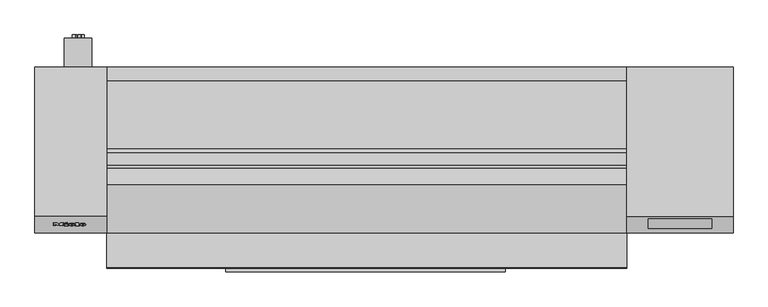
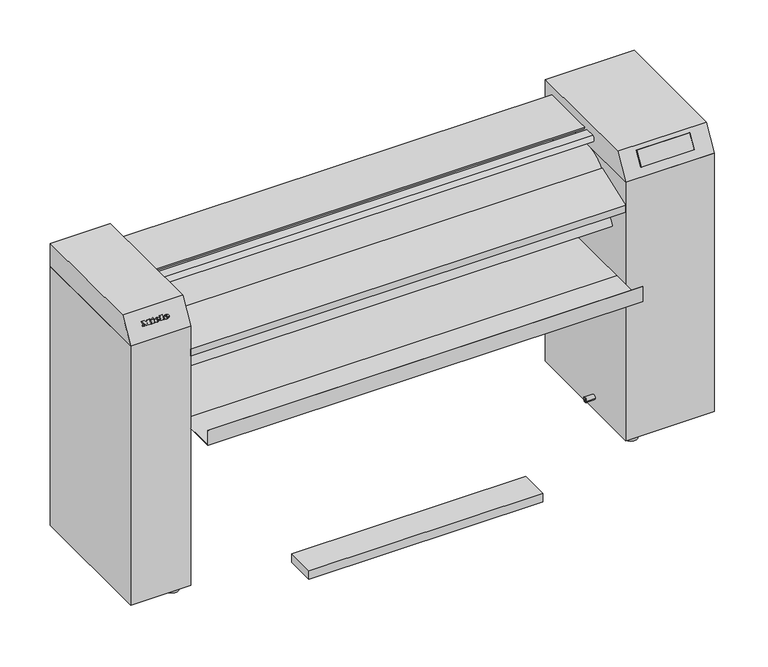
"""IFC4 building model written with IfcOpenShell, lengths in millimetres: proxy geometry, 11744550_EU_PRI214EL_STW : 53214004_EU_11744550_PRI214EL_STW."""

from ifc_helpers import new_model, si_unit, point, frame, frame_2d, origin, place, context, project, spatial, polyline, circle_curve, ellipse_curve, trimmed, segment, composite_curve, outline, extrude, faceted_brep, source, transform, mapped, element, save
from ifc_brep_helpers import plane_surface, cylinder_surface, revolved_surface, extruded_surface, advanced_brep


def specialty_equipment_5863dd85(model_context):
    return source(origin(), model_context, "Body", "SolidModel", [
        advanced_brep(
        [(-852.7523169, -447.1698462, 991.5429863), (-852.7523169, -446.4123462, 992.8550148), (-842.7173169, -446.4123462, 992.8550148), (-860.1773169, -446.4123462, 992.8550148), (-856.0523169, -448.9473462, 988.464266), (-842.9723169, -447.1698462, 991.5429863), (-847.5023169, -447.1698462, 991.5429863), (-851.0723169, -448.0098462, 990.0880637), (-852.7523169, -445.4523462, 994.5177836), (-852.7523169, -444.6348462, 995.9337351), (-850.1873169, -444.6348462, 995.9337351), (-850.1873169, -445.4523462, 994.5177836), (-852.7523169, -446.3038208, 991.0429863), (-851.0723169, -447.1438208, 989.5880637), (-847.5023169, -446.3038208, 991.0429863), (-842.9723169, -446.3038208, 991.0429863), (-856.0523169, -448.0813208, 987.964266), (-860.1773169, -445.5463208, 992.3550148), (-842.7173169, -445.5463208, 992.3550148), (-852.7523169, -445.5463208, 992.3550148), (-852.7523169, -444.5863208, 994.0177836), (-850.1873169, -444.5863208, 994.0177836), (-850.1873169, -443.7688208, 995.4337351), (-852.7523169, -443.7688208, 995.4337351)],
        [
            (0, 1),
            (1, 2),
            (2, 3, ellipse_curve(frame((-851.4473169, -446.4123462, 992.8550148), z_axis=(0.0, -0.8660254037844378, 0.5000000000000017), x_axis=(-1.0, 0.0, 0.0)), 8.73, 7.215)),
            (3, 4, circle_curve(frame((-854.3722351, -446.1573462, 993.2966878), z_axis=(0.0, -0.8660254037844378, 0.5000000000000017), x_axis=(0.0, -0.5000000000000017, -0.8660254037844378)), 5.8274415)),
            (4, 5, circle_curve(frame((-851.6220789, -444.1773462, 996.7261484), z_axis=(0.0, -0.8660254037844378, 0.5000000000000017), x_axis=(0.0, -0.5000000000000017, -0.8660254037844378)), 10.5184889)),
            (5, 6),
            (6, 7, circle_curve(frame((-850.3390816, -446.4723462, 992.7510918), z_axis=(0.0, 0.8660254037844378, -0.5000000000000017), x_axis=(0.0, -0.5000000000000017, -0.8660254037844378)), 3.1612116)),
            (7, 0, circle_curve(frame((-851.0723169, -447.1698462, 991.5429863), z_axis=(0.0, 0.8660254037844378, -0.5000000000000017), x_axis=(0.0, -0.5000000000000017, -0.8660254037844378)), 1.68)),
            (8, 9),
            (9, 10, circle_curve(frame((-851.4698169, -444.6348462, 995.9337351), z_axis=(0.0, 0.8660254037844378, -0.5000000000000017), x_axis=(0.0, -0.5000000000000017, -0.8660254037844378)), 1.2825)),
            (10, 11),
            (11, 8),
            (12, 13, circle_curve(frame((-851.0723169, -446.3038208, 991.0429863), z_axis=(0.0, -0.8660254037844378, 0.5000000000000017), x_axis=(0.0, -0.5000000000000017, -0.8660254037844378)), 1.68)),
            (13, 14, circle_curve(frame((-850.3390816, -445.6063208, 992.2510918), z_axis=(0.0, -0.8660254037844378, 0.5000000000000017), x_axis=(0.0, -0.5000000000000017, -0.8660254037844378)), 3.1612116)),
            (14, 15),
            (15, 16, circle_curve(frame((-851.6220789, -443.3113208, 996.2261484), z_axis=(0.0, 0.8660254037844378, -0.5000000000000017), x_axis=(0.0, -0.5000000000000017, -0.8660254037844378)), 10.5184889)),
            (16, 17, circle_curve(frame((-854.3722351, -445.2913208, 992.7966878), z_axis=(0.0, 0.8660254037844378, -0.5000000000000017), x_axis=(0.0, -0.5000000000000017, -0.8660254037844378)), 5.8274415)),
            (17, 18, ellipse_curve(frame((-851.4473169, -445.5463208, 992.3550148), z_axis=(0.0, 0.8660254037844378, -0.5000000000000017), x_axis=(-1.0, 0.0, 0.0)), 8.73, 7.215)),
            (18, 19),
            (19, 12),
            (20, 21),
            (21, 22),
            (22, 23, circle_curve(frame((-851.4698169, -443.7688208, 995.4337351), z_axis=(0.0, -0.8660254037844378, 0.5000000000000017), x_axis=(0.0, -0.5000000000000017, -0.8660254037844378)), 1.2825)),
            (23, 20),
            (0, 12),
            (19, 1),
            (18, 2),
            (5, 15),
            (14, 6),
            (17, 3),
            (13, 7),
            (16, 4),
            (8, 20),
            (23, 9),
            (22, 10),
            (21, 11),
        ],
        [
            plane_surface(frame((-852.7523169, -446.4123462, 992.8550148), z_axis=(0.0, -0.8660254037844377, 0.5000000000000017), x_axis=(0.0, 0.5000000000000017, 0.8660254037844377))),
            plane_surface(frame((-852.7523169, -445.5463208, 992.3550148), z_axis=(0.0, 0.8660254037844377, -0.5000000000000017), x_axis=(0.0, -0.5000000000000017, -0.8660254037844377))),
            plane_surface(frame((-852.7523169, -447.1698462, 991.5429863), z_axis=(1.0, 0.0, 0.0), x_axis=(0.0, 0.866025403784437, -0.5000000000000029))),
            plane_surface(frame((-852.7523169, -446.4123462, 992.8550148), z_axis=(0.0, -0.5000000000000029, -0.866025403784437), x_axis=(0.0, 0.866025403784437, -0.5000000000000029))),
            plane_surface(frame((-842.9723169, -447.1698462, 991.5429863), z_axis=(0.0, 0.5000000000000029, 0.866025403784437), x_axis=(0.0, 0.866025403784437, -0.5000000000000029))),
            extruded_surface(trimmed(ellipse_curve(frame((-851.4473169, -444.6802954, 991.8550148), z_axis=(0.0, -0.8660254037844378, 0.5000000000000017), x_axis=(-1.0, 0.0, 0.0)), 8.73, 7.215), [point((-842.7173169, -444.6802954, 991.8550148))], [point((-860.1773169, -444.6802954, 991.8550148))], True, "CARTESIAN"), (0.0, -0.8660254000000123, 0.5), 0.9999999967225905),
            revolved_surface(polyline([(-850.3390816, -447.18692657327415, 989.5134022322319), (-850.3390816, -448.0529520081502, 990.0134022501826)]), (-850.3390816, -445.6063208, 992.2510918), (0.0, 0.8660254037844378, -0.5000000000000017)),
            revolved_surface(polyline([(-851.0723169, -447.14382079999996, 989.5880636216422), (-851.0723169, -448.009846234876, 990.088063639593)]), (-851.0723169, -446.3038208, 991.0429863), (0.0, 0.8660254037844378, -0.5000000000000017)),
            cylinder_surface(frame((-854.3722351, -445.2913208, 992.7966878), z_axis=(0.0, -0.8660254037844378, 0.5000000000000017), x_axis=(0.0, -0.5000000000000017, -0.8660254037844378)), 5.8274415),
            cylinder_surface(frame((-851.6220789, -443.3113208, 996.2261484), z_axis=(0.0, -0.8660254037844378, 0.5000000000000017), x_axis=(0.0, -0.5000000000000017, -0.8660254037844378)), 10.5184889),
            plane_surface(frame((-852.7523169, -445.4523462, 994.5177836), z_axis=(1.0, 0.0, 0.0), x_axis=(0.0, 0.866025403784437, -0.5000000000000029))),
            revolved_surface(polyline([(-851.4698169, -444.4100708, 994.3230575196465), (-851.4698169, -445.27609620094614, 994.8230575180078)]), (-851.4698169, -443.7688208, 995.4337351), (0.0, 0.8660254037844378, -0.5000000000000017)),
            plane_surface(frame((-850.1873169, -444.6348462, 995.9337351), z_axis=(-1.0, 0.0, 0.0), x_axis=(0.0, 0.866025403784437, -0.5000000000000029))),
            plane_surface(frame((-850.1873169, -445.4523462, 994.5177836), z_axis=(0.0, 0.5000000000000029, 0.866025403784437), x_axis=(0.0, 0.866025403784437, -0.5000000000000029))),
        ],
        [
            (0, [[1, 2, 3, 4, 5, 6, 7, 8], [9, 10, 11, 12]]),
            (1, [[13, 14, 15, 16, 17, 18, 19, 20], [21, 22, 23, 24]]),
            (2, [[-1, 25, -20, 26]]),
            (3, [[-2, -26, -19, 27]]),
            (4, [[-6, 28, -15, 29]]),
            (5, [[-3, -27, -18, 30]]),
            (6, [[-7, -29, -14, 31]]),
            (7, [[-8, -31, -13, -25]]),
            (8, [[-4, -30, -17, 32]]),
            (9, [[-5, -32, -16, -28]]),
            (10, [[-9, 33, -24, 34]]),
            (11, [[-10, -34, -23, 35]]),
            (12, [[-11, -35, -22, 36]]),
            (13, [[-12, -36, -21, -33]]),
        ],
    ),
        advanced_brep(
        [(-884.0573169, -447.2109601, 991.7728003), (-884.0573169, -446.4534601, 993.0848288), (-874.0223169, -446.4534601, 993.0848288), (-891.4823169, -446.4534601, 993.0848288), (-887.3573169, -448.9884601, 988.69408), (-874.2773169, -447.2109601, 991.7728003), (-878.8073169, -447.2109601, 991.7728003), (-882.3773169, -448.0509601, 990.3178776), (-884.0573169, -445.4934601, 994.7475976), (-884.0573169, -444.6759601, 996.1635491), (-881.4923169, -444.6759601, 996.1635491), (-881.4923169, -445.4934601, 994.7475976), (-884.0573169, -446.3449347, 991.2728003), (-882.3773169, -447.1849347, 989.8178776), (-878.8073169, -446.3449347, 991.2728003), (-874.2773169, -446.3449347, 991.2728003), (-887.3573169, -448.1224347, 988.19408), (-891.4823169, -445.5874347, 992.5848288), (-874.0223169, -445.5874347, 992.5848288), (-884.0573169, -445.5874347, 992.5848288), (-884.0573169, -444.6274347, 994.2475976), (-881.4923169, -444.6274347, 994.2475976), (-881.4923169, -443.8099347, 995.6635491), (-884.0573169, -443.8099347, 995.6635491)],
        [
            (0, 1),
            (1, 2),
            (2, 3, ellipse_curve(frame((-882.7523169, -446.4534601, 993.0848288), z_axis=(0.0, -0.8660254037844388, 0.4999999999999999), x_axis=(-1.0, 0.0, 0.0)), 8.73, 7.215)),
            (3, 4, circle_curve(frame((-885.6772351, -446.1984601, 993.5265018), z_axis=(0.0, -0.8660254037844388, 0.4999999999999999), x_axis=(0.0, -0.4999999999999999, -0.8660254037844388)), 5.8274415)),
            (4, 5, circle_curve(frame((-882.9270789, -444.2184601, 996.9559624), z_axis=(0.0, -0.8660254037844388, 0.4999999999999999), x_axis=(0.0, -0.4999999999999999, -0.8660254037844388)), 10.5184889)),
            (5, 6),
            (6, 7, circle_curve(frame((-881.6440816, -446.5134601, 992.9809058), z_axis=(0.0, 0.8660254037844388, -0.4999999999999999), x_axis=(0.0, -0.4999999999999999, -0.8660254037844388)), 3.1612116)),
            (7, 0, circle_curve(frame((-882.3773169, -447.2109601, 991.7728003), z_axis=(0.0, 0.8660254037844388, -0.4999999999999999), x_axis=(0.0, -0.4999999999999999, -0.8660254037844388)), 1.68)),
            (8, 9),
            (9, 10, circle_curve(frame((-882.7748169, -444.6759601, 996.1635491), z_axis=(0.0, 0.8660254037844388, -0.4999999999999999), x_axis=(0.0, -0.4999999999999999, -0.8660254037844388)), 1.2825)),
            (10, 11),
            (11, 8),
            (12, 13, circle_curve(frame((-882.3773169, -446.3449347, 991.2728003), z_axis=(0.0, -0.8660254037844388, 0.4999999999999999), x_axis=(0.0, -0.4999999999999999, -0.8660254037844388)), 1.68)),
            (13, 14, circle_curve(frame((-881.6440816, -445.6474347, 992.4809058), z_axis=(0.0, -0.8660254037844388, 0.4999999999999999), x_axis=(0.0, -0.4999999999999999, -0.8660254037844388)), 3.1612116)),
            (14, 15),
            (15, 16, circle_curve(frame((-882.9270789, -443.3524347, 996.4559624), z_axis=(0.0, 0.8660254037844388, -0.4999999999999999), x_axis=(0.0, -0.4999999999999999, -0.8660254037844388)), 10.5184889)),
            (16, 17, circle_curve(frame((-885.6772351, -445.3324347, 993.0265018), z_axis=(0.0, 0.8660254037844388, -0.4999999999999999), x_axis=(0.0, -0.4999999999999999, -0.8660254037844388)), 5.8274415)),
            (17, 18, ellipse_curve(frame((-882.7523169, -445.5874347, 992.5848288), z_axis=(0.0, 0.8660254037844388, -0.4999999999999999), x_axis=(-1.0, 0.0, 0.0)), 8.73, 7.215)),
            (18, 19),
            (19, 12),
            (20, 21),
            (21, 22),
            (22, 23, circle_curve(frame((-882.7748169, -443.8099347, 995.6635491), z_axis=(0.0, -0.8660254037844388, 0.4999999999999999), x_axis=(0.0, -0.4999999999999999, -0.8660254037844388)), 1.2825)),
            (23, 20),
            (0, 12),
            (19, 1),
            (18, 2),
            (5, 15),
            (14, 6),
            (17, 3),
            (13, 7),
            (16, 4),
            (8, 20),
            (23, 9),
            (22, 10),
            (21, 11),
        ],
        [
            plane_surface(frame((-884.0573169, -446.4534601, 993.0848288), z_axis=(0.0, -0.8660254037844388, 0.49999999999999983), x_axis=(0.0, 0.49999999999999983, 0.8660254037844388))),
            plane_surface(frame((-884.0573169, -445.5874347, 992.5848288), z_axis=(0.0, 0.8660254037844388, -0.49999999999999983), x_axis=(0.0, -0.49999999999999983, -0.8660254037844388))),
            plane_surface(frame((-884.0573169, -447.2109601, 991.7728003), z_axis=(1.0, 0.0, 0.0), x_axis=(0.0, 0.866025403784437, -0.5000000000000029))),
            plane_surface(frame((-884.0573169, -446.4534601, 993.0848288), z_axis=(0.0, -0.5000000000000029, -0.866025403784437), x_axis=(0.0, 0.866025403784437, -0.5000000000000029))),
            plane_surface(frame((-874.2773169, -447.2109601, 991.7728003), z_axis=(0.0, 0.5000000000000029, 0.866025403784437), x_axis=(0.0, 0.866025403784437, -0.5000000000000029))),
            extruded_surface(trimmed(ellipse_curve(frame((-882.7523169, -444.7214093, 992.0848288), z_axis=(0.0, -0.8660254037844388, 0.4999999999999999), x_axis=(-1.0, 0.0, 0.0)), 8.73, 7.215), [point((-874.0223169, -444.7214093, 992.0848288))], [point((-891.4823169, -444.7214093, 992.0848288))], True, "CARTESIAN"), (0.0, -0.8660254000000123, 0.5), 0.9999999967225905),
            revolved_surface(polyline([(-881.6440816, -447.2280404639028, 989.7432162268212), (-881.6440816, -448.0940659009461, 990.2432162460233)]), (-881.6440816, -445.6474347, 992.4809058), (0.0, 0.8660254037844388, -0.4999999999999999)),
            revolved_surface(polyline([(-882.3773169, -447.18493469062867, 989.8178776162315), (-882.3773169, -448.0509601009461, 990.3178776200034)]), (-882.3773169, -446.3449347, 991.2728003), (0.0, 0.8660254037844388, -0.4999999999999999)),
            cylinder_surface(frame((-885.6772351, -445.3324347, 993.0265018), z_axis=(0.0, -0.8660254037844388, 0.4999999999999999), x_axis=(0.0, -0.4999999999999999, -0.8660254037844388)), 5.8274415),
            cylinder_surface(frame((-882.9270789, -443.3524347, 996.4559624), z_axis=(0.0, -0.8660254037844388, 0.4999999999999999), x_axis=(0.0, -0.4999999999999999, -0.8660254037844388)), 10.5184889),
            plane_surface(frame((-884.0573169, -445.4934601, 994.7475976), z_axis=(1.0, 0.0, 0.0), x_axis=(0.0, 0.866025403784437, -0.5000000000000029))),
            revolved_surface(polyline([(-882.7748169, -444.4511847, 994.5528715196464), (-882.7748169, -445.3172101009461, 995.0528715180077)]), (-882.7748169, -443.8099347, 995.6635491), (0.0, 0.8660254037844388, -0.4999999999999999)),
            plane_surface(frame((-881.4923169, -444.6759601, 996.1635491), z_axis=(-1.0, 0.0, 0.0), x_axis=(0.0, 0.866025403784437, -0.5000000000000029))),
            plane_surface(frame((-881.4923169, -445.4934601, 994.7475976), z_axis=(0.0, 0.5000000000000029, 0.866025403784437), x_axis=(0.0, 0.866025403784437, -0.5000000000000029))),
        ],
        [
            (0, [[1, 2, 3, 4, 5, 6, 7, 8], [9, 10, 11, 12]]),
            (1, [[13, 14, 15, 16, 17, 18, 19, 20], [21, 22, 23, 24]]),
            (2, [[-1, 25, -20, 26]]),
            (3, [[-2, -26, -19, 27]]),
            (4, [[-6, 28, -15, 29]]),
            (5, [[-3, -27, -18, 30]]),
            (6, [[-7, -29, -14, 31]]),
            (7, [[-8, -31, -13, -25]]),
            (8, [[-4, -30, -17, 32]]),
            (9, [[-5, -32, -16, -28]]),
            (10, [[-9, 33, -24, 34]]),
            (11, [[-10, -34, -23, 35]]),
            (12, [[-11, -35, -22, 36]]),
            (13, [[-12, -36, -21, -33]]),
        ],
    ),
        extrude(outline(polyline([(0.0, 0.0), (-0.0204536, -5.6237427), (-2.6982028, -5.6101628), (-2.6841199, 0.0), (0.0, 0.0)])), frame((-900.4523169, -441.3274347, 999.9633652), z_axis=(0.0, -0.8660254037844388, 0.49999999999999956), x_axis=(-0.42472021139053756, 0.45266233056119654, 0.7840341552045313)), (0.0, 0.0, 1.0), 1.0),
        extrude(outline(polyline([(-0.9251077, 4.5264556), (-5.2126582, -4.6127968), (-13.2112016, -0.8603938), (-13.9502147, -2.4356587), (-16.2316329, -1.3653637), (-11.2050692, 9.3491536), (-8.923651, 8.2788587), (-9.6817766, 6.6628542), (-4.11403, 4.0508249), (-3.3559044, 5.6668294), (-0.9251077, 4.5264556)])), frame((-900.4523169, -441.3274347, 999.9633652), z_axis=(0.0, -0.8660254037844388, 0.49999999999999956), x_axis=(-0.42472021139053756, 0.45266233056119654, 0.7840341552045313)), (0.0, 0.0, 1.0), 1.0),
        extrude(outline(polyline([(0.0, 0.0), (0.0, -2.445), (-10.32, -2.445), (-10.32, 10.035), (-12.165, 10.035), (-12.165, 12.555), (0.0, 12.555), (0.0, 10.035), (-1.8, 10.035), (-1.8, 0.0), (0.0, 0.0)])), frame((-873.1823169, -441.8977756, 998.6744804), z_axis=(0.0, -0.8660254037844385, 0.5000000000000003), x_axis=(-1.0, 0.0, 0.0)), (0.0, 0.0, 1.0), 1.0),
        extrude(outline(polyline([(0.0, 0.0), (0.0, -2.445), (-10.455, -2.445), (-14.85, 3.18), (-19.23, -2.445), (-28.365, -2.445), (-28.365, 0.0), (-26.46, 0.0), (-26.46, 10.0350001), (-28.365, 10.0350001), (-28.365, 12.555), (-16.395, 12.555), (-16.395, 10.0350001), (-18.24, 10.0350001), (-18.24, 3.3647778), (-11.505, 12.555), (-4.8, 3.6988753), (-4.8, 10.0350001), (-6.6, 10.0350001), (-6.6, 12.555), (0.0, 12.555), (0.0, 10.0350001), (-1.815, 10.0350001), (-1.815, 0.0), (0.0, 0.0)])), frame((-934.0523169, -441.8229474, 998.8040867), z_axis=(0.0, -0.8660254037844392, 0.4999999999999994), x_axis=(-1.0, 0.0, 0.0)), (0.0, 0.0, 1.0), 1.0),
        extrude(outline(polyline([(-365.9889853, 793.6796927), (-390.6353849, 749.1868935), (-365.9889853, 749.1868935), (-365.9889853, 747.1868935), (-393.8714528, 747.1868935), (-367.9889853, 794.1518286), (-367.9889853, 838.0716898), (-379.8372457, 861.7682107), (-377.0332443, 861.7682107), (-365.9889853, 839.6796927), (-365.9889853, 793.6796927)])), frame((-783.5, 0.0, 0.0), z_axis=(1.0, 0.0, 0.0), x_axis=(0.0, 1.0, 0.0)), (0.0, 0.0, 1.0), 1470.0),
        extrude(outline(polyline([(-395.0, 843.9863336), (-470.0, 843.9863336), (-470.0, 868.9863336), (-334.0, 918.9863336), (-395.0, 843.9863336)])), frame((-783.5, 0.0, 0.0), z_axis=(1.0, 0.0, 0.0), x_axis=(0.0, 1.0, 0.0)), (0.0, 0.0, 1.0), 1470.0),
        extrude(outline(composite_curve([segment(polyline([(-244.0, 1001.9863336), (-244.0, 965.1103132)]), True, "CONTINUOUS"), segment(trimmed(circle_curve(frame_2d((-245.9233585, 965.1103132)), 1.9233585), [point((-244.0, 965.1103132))], [point((-246.9899766, 963.5098028))], False, "CARTESIAN"), True, "CONTINUOUS"), segment(polyline([(-246.9899766, 963.5098028), (-279.640261, 980.1459536)]), True, "CONTINUOUS"), segment(trimmed(circle_curve(frame_2d((-274.2619572, 990.7014691)), 11.846732), [point((-279.640261, 980.1459536))], [point((-277.8670773, 1001.9863336))], False, "CARTESIAN"), True, "CONTINUOUS"), segment(polyline([(-277.8670773, 1001.9863336), (-244.0, 1001.9863336)]), True, "CONTINUOUS")], self_intersect=False)), frame((-783.5, 0.0, 0.0), z_axis=(1.0, 0.0, 0.0), x_axis=(0.0, 1.0, 0.0)), (0.0, 0.0, 1.0), 1470.0),
        extrude(outline(polyline([(-45.0, 850.9863336), (-40.0, 850.9863336), (-40.0, 803.3618723), (-66.0513656, 731.7863336), (-150.9374699, 731.7863336), (-150.9374699, 736.7863336), (-69.5524033, 736.7863336), (-45.0, 804.2435072), (-45.0, 850.9863336)])), frame((-783.5, 0.0, 0.0), z_axis=(1.0, 0.0, 0.0), x_axis=(0.0, 1.0, 0.0)), (0.0, 0.0, 1.0), 1470.0),
        extrude(outline(polyline([(-40.0, 1001.9863336), (-40.0, 850.9863336), (-45.0, 850.9863336), (-45.0, 996.9863336), (-230.0, 996.9863336), (-230.0, 1001.9863336), (-40.0, 1001.9863336)])), frame((-783.5, 0.0, 0.0), z_axis=(1.0, 0.0, 0.0), x_axis=(0.0, 1.0, 0.0)), (0.0, 0.0, 1.0), 1470.0),
        extrude(outline(polyline([(342.5, -480.0), (342.5, -580.0), (-447.5, -580.0), (-447.5, -480.0), (342.5, -480.0)])), frame((0.0, 0.0, -6.0136664), z_axis=(0.0, 0.0, 1.0), x_axis=(1.0, 0.0, 0.0)), (0.0, 0.0, 1.0), 30.0),
        extrude(outline(polyline([(-422.6572779, 1031.9863336), (0.0, 1031.9863336), (0.0, 949.9863336), (-470.0, 949.9863336), (-422.6572779, 1031.9863336)])), frame((-986.5, 0.0, 0.0), z_axis=(1.0, 0.0, 0.0), x_axis=(0.0, 1.0, 0.0)), (0.0, 0.0, 1.0), 203.0),
        extrude(outline(polyline([(424.6662565, -847.40575), (444.7575185, -855.4255775), (444.7575185, -857.5641981), (424.6662565, -865.5840256), (424.6662565, -862.9303702), (430.9447758, -860.6298814), (430.9447758, -852.3549891), (424.6662565, -850.0594054), (424.6662565, -847.40575)]), holes=[polyline([(433.4561836, -853.2771466), (433.4561836, -859.712629), (438.3956125, -857.9026496), (442.2461107, -856.4948878), (438.8272607, -855.244089), (433.4561836, -853.2771466)])]), frame((0.0, 81.0, 0.0), z_axis=(0.0, 1.0, 0.0), x_axis=(0.0, 0.0, 1.0)), (0.0, 0.0, 1.0), 10.0),
        extrude(outline(polyline([(424.6662565, -868.2671116), (444.7575185, -868.2671116), (444.7575185, -870.7785194), (427.1776642, -870.7785194), (427.1776642, -880.8241504), (424.6662565, -880.8241504), (424.6662565, -868.2671116)])), frame((0.0, 81.0, 0.0), z_axis=(0.0, 1.0, 0.0), x_axis=(0.0, 0.0, 1.0)), (0.0, 0.0, 1.0), 10.0),
        extrude(outline(composite_curve([segment(trimmed(circle_curve(frame_2d((435.9863336, -864.5)), 39.0), [point((435.9863336, -903.5))], [point((435.9863336, -825.5))], False, "CARTESIAN"), True, "CONTINUOUS"), segment(trimmed(circle_curve(frame_2d((435.9863336, -864.5)), 39.0), [point((435.9863336, -825.5))], [point((435.9863336, -903.5))], False, "CARTESIAN"), True, "CONTINUOUS")], self_intersect=False), holes=[composite_curve([segment(trimmed(circle_curve(frame_2d((435.9863336, -864.5)), 33.5), [point((435.9863336, -898.0))], [point((435.9863336, -831.0))], True, "CARTESIAN"), True, "CONTINUOUS"), segment(trimmed(circle_curve(frame_2d((435.9863336, -864.5)), 33.5), [point((435.9863336, -831.0))], [point((435.9863336, -898.0))], True, "CARTESIAN"), True, "CONTINUOUS")], self_intersect=False)]), frame((0.0, 0.0, 0.0), z_axis=(0.0, 1.0, 0.0), x_axis=(0.0, 0.0, 1.0)), (0.0, 0.0, 1.0), 81.0),
        extrude(outline(composite_curve([segment(trimmed(circle_curve(frame_2d((-823.9685993, -40.5)), 21.5), [point((-845.4685993, -40.5))], [point((-802.4685993, -40.5))], False, "CARTESIAN"), True, "CONTINUOUS"), segment(trimmed(circle_curve(frame_2d((-823.9685993, -40.5)), 21.5), [point((-802.4685993, -40.5))], [point((-845.4685993, -40.5))], False, "CARTESIAN"), True, "CONTINUOUS")], self_intersect=False)), frame((0.0, 0.0, -0.0136664), z_axis=(0.0, 0.0, 1.0), x_axis=(1.0, 0.0, 0.0)), (0.0, 0.0, 1.0), 23.0),
        extrude(outline(composite_curve([segment(trimmed(circle_curve(frame_2d((-823.9685993, -429.5)), 21.5), [point((-845.4685993, -429.5))], [point((-802.4685993, -429.5))], False, "CARTESIAN"), True, "CONTINUOUS"), segment(trimmed(circle_curve(frame_2d((-823.9685993, -429.5)), 21.5), [point((-802.4685993, -429.5))], [point((-845.4685993, -429.5))], False, "CARTESIAN"), True, "CONTINUOUS")], self_intersect=False)), frame((0.0, 0.0, -0.0136664), z_axis=(0.0, 0.0, 1.0), x_axis=(1.0, 0.0, 0.0)), (0.0, 0.0, 1.0), 23.0),
        extrude(outline(polyline([(-783.5, 0.0), (-783.5, -470.0), (-986.5, -470.0), (-986.5, 0.0), (-783.5, 0.0)])), frame((0.0, 0.0, 22.9863336), z_axis=(0.0, 0.0, 1.0), x_axis=(1.0, 0.0, 0.0)), (0.0, 0.0, 1.0), 927.0),
        extrude(outline(polyline([(0.0236709, 379.9863336), (-223.5359646, 379.9863336), (-417.2970905, 559.9863336), (0.0236709, 559.9863336), (0.0236709, 379.9863336)])), frame((-783.5, 0.0, 0.0), z_axis=(1.0, 0.0, 0.0), x_axis=(0.0, 1.0, 0.0)), (0.0, 0.0, 1.0), 1470.0),
        extrude(outline(polyline([(686.5, 0.0236709), (686.5, -417.9763291), (-783.5, -417.9763291), (-783.5, 0.0236709), (686.5, 0.0236709)])), frame((0.0, 0.0, 559.9863336), z_axis=(0.0, 0.0, 1.0), x_axis=(1.0, 0.0, 0.0)), (0.0, 0.0, 1.0), 25.0),
        faceted_brep([(986.5, 0.0236709, 949.9863336), (986.5, 0.0236709, 1031.9863336), (986.5, -422.9763291, 1031.9863336), (986.5, -469.9763291, 949.9863336), (686.5, 0.0236709, 949.9863336), (686.5, -469.9763291, 949.9863336), (686.5, -422.9763291, 1031.9863336), (686.5, 0.0236709, 1031.9863336), (746.5, -429.3510672, 1019.6169127), (925.8679662, -429.3510672, 1019.6169127), (925.8679662, -429.8883285, 1019.9271007), (746.5, -429.8883285, 1019.9271007), (746.5, -455.5716302, 974.2015654), (746.5, -455.966272, 974.429412), (925.8679662, -455.5716302, 974.2015654), (925.8679662, -455.966272, 974.429412)], [[[0, 1, 2, 3]], [[4, 5, 6, 7]], [[0, 3, 5, 4]], [[1, 0, 4, 7]], [[8, 9, 10, 11]], [[12, 8, 11, 13]], [[14, 12, 13, 15]], [[9, 14, 15, 10]], [[9, 8, 12, 14]], [[2, 1, 7, 6]], [[3, 2, 6, 5], [11, 10, 15, 13]]]),
        extrude(outline(polyline([(-569.8763291, 583.9863336), (-569.8763291, 636.8577549), (-568.8763291, 636.8577549), (-568.8763291, 584.9863336), (-417.9763291, 584.9863336), (-417.9763291, 583.9863336), (-569.8763291, 583.9863336)])), frame((-783.5, 0.0, 0.0), z_axis=(1.0, 0.0, 0.0), x_axis=(0.0, 1.0, 0.0)), (0.0, 0.0, 1.0), 1470.0),
        extrude(outline(composite_curve([segment(trimmed(circle_curve(frame_2d((727.1327502, -40.4763291)), 21.5), [point((705.6327502, -40.4763291))], [point((748.6327502, -40.4763291))], False, "CARTESIAN"), True, "CONTINUOUS"), segment(trimmed(circle_curve(frame_2d((727.1327502, -40.4763291)), 21.5), [point((748.6327502, -40.4763291))], [point((705.6327502, -40.4763291))], False, "CARTESIAN"), True, "CONTINUOUS")], self_intersect=False)), frame((0.0, 0.0, -0.0136664), z_axis=(0.0, 0.0, 1.0), x_axis=(1.0, 0.0, 0.0)), (0.0, 0.0, 1.0), 25.0),
        extrude(outline(composite_curve([segment(trimmed(circle_curve(frame_2d((727.1327502, -429.4763291)), 21.5), [point((705.6327502, -429.4763291))], [point((748.6327502, -429.4763291))], False, "CARTESIAN"), True, "CONTINUOUS"), segment(trimmed(circle_curve(frame_2d((727.1327502, -429.4763291)), 21.5), [point((748.6327502, -429.4763291))], [point((705.6327502, -429.4763291))], False, "CARTESIAN"), True, "CONTINUOUS")], self_intersect=False)), frame((0.0, 0.0, -0.0136664), z_axis=(0.0, 0.0, 1.0), x_axis=(1.0, 0.0, 0.0)), (0.0, 0.0, 1.0), 25.0),
        extrude(outline(composite_curve([segment(trimmed(circle_curve(frame_2d((-251.3303793, 844.9863336)), 105.0), [point((-356.3303793, 844.9863336))], [point((-146.3303793, 844.9863336))], False, "CARTESIAN"), True, "CONTINUOUS"), segment(trimmed(circle_curve(frame_2d((-251.3303793, 844.9863336)), 105.0), [point((-146.3303793, 844.9863336))], [point((-356.3303793, 844.9863336))], False, "CARTESIAN"), True, "CONTINUOUS")], self_intersect=False), holes=[composite_curve([segment(trimmed(circle_curve(frame_2d((-251.3303793, 844.9863336)), 97.0), [point((-348.3303793, 844.9863336))], [point((-154.3303793, 844.9863336))], True, "CARTESIAN"), True, "CONTINUOUS"), segment(trimmed(circle_curve(frame_2d((-251.3303793, 844.9863336)), 97.0), [point((-154.3303793, 844.9863336))], [point((-348.3303793, 844.9863336))], True, "CARTESIAN"), True, "CONTINUOUS")], self_intersect=False)]), frame((-783.5, 0.0, 0.0), z_axis=(1.0, 0.0, 0.0), x_axis=(0.0, 1.0, 0.0)), (0.0, 0.0, 1.0), 1470.0),
        extrude(outline(polyline([(-277.6341978, 65.1036783), (-285.0114581, 65.1036783), (-285.0114581, 66.3593822), (-278.8899017, 66.3593822), (-278.8899017, 69.6556048), (-284.5405691, 69.6556048), (-284.5405691, 70.9113087), (-278.8899017, 70.9113087), (-278.8899017, 73.8936054), (-284.8544951, 73.8936054), (-284.8544951, 75.1493093), (-277.6341978, 75.1493093), (-277.6341978, 65.1036783)])), frame((655.5, 0.0, 0.0), z_axis=(1.0, 0.0, 0.0), x_axis=(0.0, 1.0, 0.0)), (0.0, 0.0, 1.0), 1.0),
        extrude(outline(polyline([(-286.8950139, 65.1036783), (-293.1735333, 65.1036783), (-293.1735333, 66.3593822), (-288.1507178, 66.3593822), (-288.1507178, 75.1493093), (-286.8950139, 75.1493093), (-286.8950139, 65.1036783)])), frame((655.5, 0.0, 0.0), z_axis=(1.0, 0.0, 0.0), x_axis=(0.0, 1.0, 0.0)), (0.0, 0.0, 1.0), 1.0),
        extrude(outline(composite_curve([segment(trimmed(circle_curve(frame_2d((-284.9763291, 69.9863336)), 8.4760012), [point((-293.4523303, 69.9863336))], [point((-276.5003279, 69.9863336))], False, "CARTESIAN"), True, "CONTINUOUS"), segment(trimmed(circle_curve(frame_2d((-284.9763291, 69.9863336)), 8.4760012), [point((-276.5003279, 69.9863336))], [point((-293.4523303, 69.9863336))], False, "CARTESIAN"), True, "CONTINUOUS")], self_intersect=False)), frame((656.5, 0.0, 0.0), z_axis=(1.0, 0.0, 0.0), x_axis=(0.0, 1.0, 0.0)), (0.0, 0.0, 1.0), 30.0),
        extrude(outline(polyline([(986.5, 0.0236709), (986.5, -469.9763291), (686.5, -469.9763291), (686.5, 0.0236709), (986.5, 0.0236709)])), frame((0.0, 0.0, 24.9863336), z_axis=(0.0, 0.0, 1.0), x_axis=(1.0, 0.0, 0.0)), (0.0, 0.0, 1.0), 925.0),
        extrude(outline(polyline([(0.0, -0.8910477), (0.0, 0.0), (180.0, 0.0), (180.0, -0.8910477), (0.0, -0.8910477)])), frame((926.5, -456.4489109, 974.8961023), z_axis=(0.0, 0.5000000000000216, 0.8660254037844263), x_axis=(-1.0, 0.0, 0.0)), (0.0, 0.0, 1.0), 52.2782797),
    ])


if __name__ == "__main__":
    model = new_model("IFC4")
    model_context = context("Model", 3, world=origin())
    ifc_project = project(units=[si_unit("LENGTHUNIT", "METRE", prefix="MILLI")], contexts=[model_context])
    site = spatial("IfcSite", under=ifc_project)
    building = spatial("IfcBuilding", under=site)
    placement = place(None, origin())
    specialty_equipment_shape = specialty_equipment_5863dd85(model_context)
    element("IfcBuildingElementProxy", 1, Name="11744550_EU_PRI214EL_STW : 53214004_EU_11744550_PRI214EL_STW", ObjectType="11744550_EU_PRI214EL_STW : 53214004_EU_11744550_PRI214EL_STW", at=placement, inside=building, context=model_context, shape_type="MappedRepresentation", body=[
        mapped(specialty_equipment_shape, transform((0.0, 0.0, 0.0), x_axis=(1.0, 0.0, 0.0), y_axis=(0.0, 1.0, 0.0), z_axis=(0.0, 0.0, 1.0))),
    ])
    save(model, "model.ifc")
